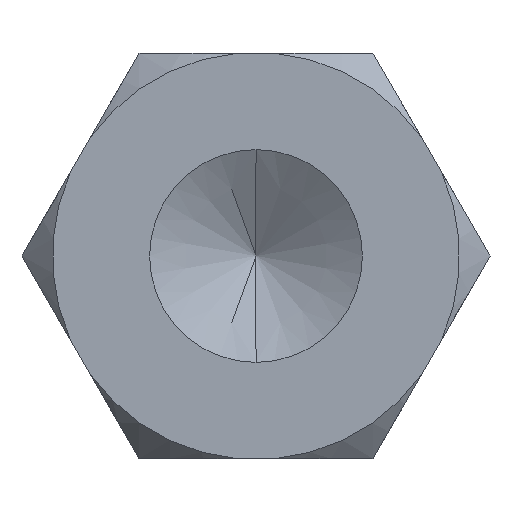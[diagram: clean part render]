
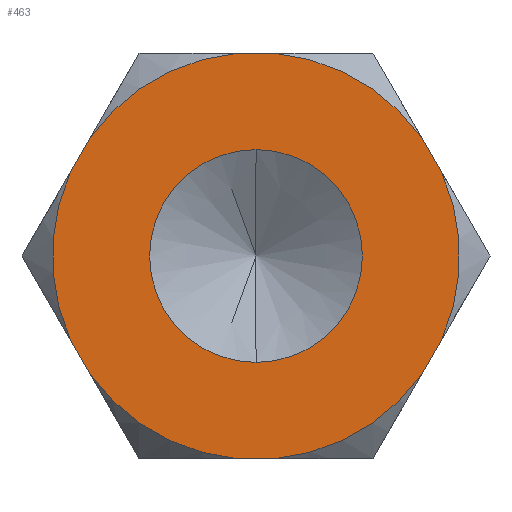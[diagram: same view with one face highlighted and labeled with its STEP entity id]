
A CAD part, front view. The second image highlights one B-rep face of the part: STEP entity #463.
In plain terms, the highlighted planar face has unit normal (0, -1, 0).
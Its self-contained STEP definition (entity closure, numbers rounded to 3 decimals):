
#7 = DIRECTION ( 'NONE',  ( 0., -1., 0. ) ) ;
#28 = AXIS2_PLACEMENT_3D ( 'NONE', #901, #893, #302 ) ;
#40 = VERTEX_POINT ( 'NONE', #411 ) ;
#42 = CARTESIAN_POINT ( 'NONE',  ( 3.27, 0., 2.336 ) ) ;
#49 = EDGE_CURVE ( 'NONE', #56, #40, #171, .T. ) ;
#56 = VERTEX_POINT ( 'NONE', #254 ) ;
#69 = CARTESIAN_POINT ( 'NONE',  ( 3.658, 0., 1.664 ) ) ;
#75 = ORIENTED_EDGE ( 'NONE', *, *, #49, .T. ) ;
#77 = DIRECTION ( 'NONE',  ( 0., 0., -1. ) ) ;
#80 = ORIENTED_EDGE ( 'NONE', *, *, #556, .F. ) ;
#90 = EDGE_LOOP ( 'NONE', ( #816, #102, #691, #567, #499, #119, #735, #75, #716, #1028, #80, #490 ) ) ;
#102 = ORIENTED_EDGE ( 'NONE', *, *, #125, .T. ) ;
#105 = LINE ( 'NONE', #623, #133 ) ;
#119 = ORIENTED_EDGE ( 'NONE', *, *, #361, .T. ) ;
#123 = CARTESIAN_POINT ( 'NONE',  ( 0., 0., 0. ) ) ;
#125 = EDGE_CURVE ( 'NONE', #1041, #235, #598, .T. ) ;
#133 = VECTOR ( 'NONE', #1023, 1000. ) ;
#135 = DIRECTION ( 'NONE',  ( -0.5, 0., 0.866 ) ) ;
#171 = CIRCLE ( 'NONE', #787, 4.019 ) ;
#187 = CARTESIAN_POINT ( 'NONE',  ( 2.309, 0., 4. ) ) ;
#205 = ORIENTED_EDGE ( 'NONE', *, *, #398, .F. ) ;
#212 = DIRECTION ( 'NONE',  ( 0., -1., 0. ) ) ;
#223 = AXIS2_PLACEMENT_3D ( 'NONE', #746, #7, #675 ) ;
#224 = VERTEX_POINT ( 'NONE', #553 ) ;
#235 = VERTEX_POINT ( 'NONE', #483 ) ;
#254 = CARTESIAN_POINT ( 'NONE',  ( 0.388, 0., -4. ) ) ;
#292 = AXIS2_PLACEMENT_3D ( 'NONE', #404, #574, #510 ) ;
#293 = CIRCLE ( 'NONE', #28, 4.019 ) ;
#296 = AXIS2_PLACEMENT_3D ( 'NONE', #994, #337, #348 ) ;
#302 = DIRECTION ( 'NONE',  ( 0., 0., 1. ) ) ;
#315 = EDGE_CURVE ( 'NONE', #224, #40, #1070, .T. ) ;
#316 = DIRECTION ( 'NONE',  ( 1., 0., 0. ) ) ;
#323 = CARTESIAN_POINT ( 'NONE',  ( 4.619, 0., 0. ) ) ;
#337 = DIRECTION ( 'NONE',  ( 0., -1., 0. ) ) ;
#342 = CARTESIAN_POINT ( 'NONE',  ( -3.658, 0., 1.664 ) ) ;
#348 = DIRECTION ( 'NONE',  ( 0., 0., 1. ) ) ;
#350 = VECTOR ( 'NONE', #904, 1000. ) ;
#354 = CARTESIAN_POINT ( 'NONE',  ( 0., 0., 0. ) ) ;
#359 = DIRECTION ( 'NONE',  ( 0., 0., 1. ) ) ;
#361 = EDGE_CURVE ( 'NONE', #992, #1022, #1076, .T. ) ;
#362 = CIRCLE ( 'NONE', #829, 2.1 ) ;
#398 = EDGE_CURVE ( 'NONE', #596, #809, #612, .T. ) ;
#404 = CARTESIAN_POINT ( 'NONE',  ( 0., 0., 0. ) ) ;
#411 = CARTESIAN_POINT ( 'NONE',  ( 3.27, 0., -2.336 ) ) ;
#415 = DIRECTION ( 'NONE',  ( 0.5, 0., 0.866 ) ) ;
#419 = EDGE_LOOP ( 'NONE', ( #730, #205 ) ) ;
#429 = EDGE_CURVE ( 'NONE', #809, #596, #362, .T. ) ;
#438 = DIRECTION ( 'NONE',  ( 0., 1., 0. ) ) ;
#448 = LINE ( 'NONE', #187, #544 ) ;
#459 = CARTESIAN_POINT ( 'NONE',  ( 0., 0., 0. ) ) ;
#463 = ADVANCED_FACE ( 'NONE', ( #767, #1035 ), #614, .F. ) ;
#467 = AXIS2_PLACEMENT_3D ( 'NONE', #354, #438, #608 ) ;
#483 = CARTESIAN_POINT ( 'NONE',  ( -3.27, 0., 2.336 ) ) ;
#490 = ORIENTED_EDGE ( 'NONE', *, *, #736, .T. ) ;
#499 = ORIENTED_EDGE ( 'NONE', *, *, #652, .F. ) ;
#501 = EDGE_CURVE ( 'NONE', #56, #1022, #105, .T. ) ;
#510 = DIRECTION ( 'NONE',  ( 0., 0., 1. ) ) ;
#531 = DIRECTION ( 'NONE',  ( 0.5, 0., -0.866 ) ) ;
#544 = VECTOR ( 'NONE', #531, 1000. ) ;
#553 = CARTESIAN_POINT ( 'NONE',  ( 3.658, 0., -1.664 ) ) ;
#556 = EDGE_CURVE ( 'NONE', #724, #867, #448, .T. ) ;
#566 = CARTESIAN_POINT ( 'NONE',  ( 0.388, 0., 4. ) ) ;
#567 = ORIENTED_EDGE ( 'NONE', *, *, #929, .T. ) ;
#573 = VERTEX_POINT ( 'NONE', #1031 ) ;
#574 = DIRECTION ( 'NONE',  ( 0., -1., 0. ) ) ;
#576 = CARTESIAN_POINT ( 'NONE',  ( -3.27, 0., -2.336 ) ) ;
#580 = AXIS2_PLACEMENT_3D ( 'NONE', #123, #1036, #359 ) ;
#595 = CIRCLE ( 'NONE', #878, 4.019 ) ;
#596 = VERTEX_POINT ( 'NONE', #712 ) ;
#598 = CIRCLE ( 'NONE', #580, 4.019 ) ;
#608 = DIRECTION ( 'NONE',  ( 0., 0., 1. ) ) ;
#612 = CIRCLE ( 'NONE', #223, 2.1 ) ;
#614 = PLANE ( 'NONE',  #467 ) ;
#622 = EDGE_CURVE ( 'NONE', #1041, #980, #627, .T. ) ;
#623 = CARTESIAN_POINT ( 'NONE',  ( 2.309, 0., -4. ) ) ;
#627 = LINE ( 'NONE', #773, #845 ) ;
#652 = EDGE_CURVE ( 'NONE', #992, #573, #1043, .T. ) ;
#675 = DIRECTION ( 'NONE',  ( 0., 0., -1. ) ) ;
#682 = CARTESIAN_POINT ( 'NONE',  ( -0.388, 0., 4. ) ) ;
#684 = CIRCLE ( 'NONE', #292, 4.019 ) ;
#690 = CARTESIAN_POINT ( 'NONE',  ( -0.388, 0., -4. ) ) ;
#691 = ORIENTED_EDGE ( 'NONE', *, *, #757, .F. ) ;
#712 = CARTESIAN_POINT ( 'NONE',  ( 0., 0., 2.1 ) ) ;
#716 = ORIENTED_EDGE ( 'NONE', *, *, #315, .F. ) ;
#719 = EDGE_CURVE ( 'NONE', #224, #867, #595, .T. ) ;
#724 = VERTEX_POINT ( 'NONE', #42 ) ;
#730 = ORIENTED_EDGE ( 'NONE', *, *, #429, .F. ) ;
#735 = ORIENTED_EDGE ( 'NONE', *, *, #501, .F. ) ;
#736 = EDGE_CURVE ( 'NONE', #724, #980, #684, .T. ) ;
#746 = CARTESIAN_POINT ( 'NONE',  ( 0., 0., 0. ) ) ;
#751 = CARTESIAN_POINT ( 'NONE',  ( 0., 0., 0. ) ) ;
#757 = EDGE_CURVE ( 'NONE', #771, #235, #909, .T. ) ;
#767 = FACE_BOUND ( 'NONE', #419, .T. ) ;
#771 = VERTEX_POINT ( 'NONE', #342 ) ;
#773 = CARTESIAN_POINT ( 'NONE',  ( -2.309, 0., 4. ) ) ;
#787 = AXIS2_PLACEMENT_3D ( 'NONE', #751, #1080, #996 ) ;
#801 = DIRECTION ( 'NONE',  ( 0., 0., 1. ) ) ;
#809 = VERTEX_POINT ( 'NONE', #1005 ) ;
#816 = ORIENTED_EDGE ( 'NONE', *, *, #622, .F. ) ;
#829 = AXIS2_PLACEMENT_3D ( 'NONE', #1000, #921, #77 ) ;
#832 = CARTESIAN_POINT ( 'NONE',  ( -4.619, 0., 0. ) ) ;
#845 = VECTOR ( 'NONE', #316, 1000. ) ;
#867 = VERTEX_POINT ( 'NONE', #69 ) ;
#878 = AXIS2_PLACEMENT_3D ( 'NONE', #459, #212, #801 ) ;
#884 = CARTESIAN_POINT ( 'NONE',  ( -2.309, 0., -4. ) ) ;
#893 = DIRECTION ( 'NONE',  ( 0., -1., 0. ) ) ;
#901 = CARTESIAN_POINT ( 'NONE',  ( 0., 0., 0. ) ) ;
#904 = DIRECTION ( 'NONE',  ( -0.5, 0., -0.866 ) ) ;
#909 = LINE ( 'NONE', #832, #1042 ) ;
#921 = DIRECTION ( 'NONE',  ( 0., -1., 0. ) ) ;
#922 = VECTOR ( 'NONE', #135, 1000. ) ;
#929 = EDGE_CURVE ( 'NONE', #771, #573, #293, .T. ) ;
#980 = VERTEX_POINT ( 'NONE', #566 ) ;
#992 = VERTEX_POINT ( 'NONE', #576 ) ;
#994 = CARTESIAN_POINT ( 'NONE',  ( 0., 0., 0. ) ) ;
#996 = DIRECTION ( 'NONE',  ( 0., 0., -1. ) ) ;
#1000 = CARTESIAN_POINT ( 'NONE',  ( 0., 0., 0. ) ) ;
#1005 = CARTESIAN_POINT ( 'NONE',  ( 0., 0., -2.1 ) ) ;
#1022 = VERTEX_POINT ( 'NONE', #690 ) ;
#1023 = DIRECTION ( 'NONE',  ( -1., 0., 0. ) ) ;
#1028 = ORIENTED_EDGE ( 'NONE', *, *, #719, .T. ) ;
#1031 = CARTESIAN_POINT ( 'NONE',  ( -3.658, 0., -1.664 ) ) ;
#1035 = FACE_OUTER_BOUND ( 'NONE', #90, .T. ) ;
#1036 = DIRECTION ( 'NONE',  ( 0., -1., 0. ) ) ;
#1041 = VERTEX_POINT ( 'NONE', #682 ) ;
#1042 = VECTOR ( 'NONE', #415, 1000. ) ;
#1043 = LINE ( 'NONE', #884, #922 ) ;
#1070 = LINE ( 'NONE', #323, #350 ) ;
#1076 = CIRCLE ( 'NONE', #296, 4.019 ) ;
#1080 = DIRECTION ( 'NONE',  ( 0., -1., 0. ) ) ;
